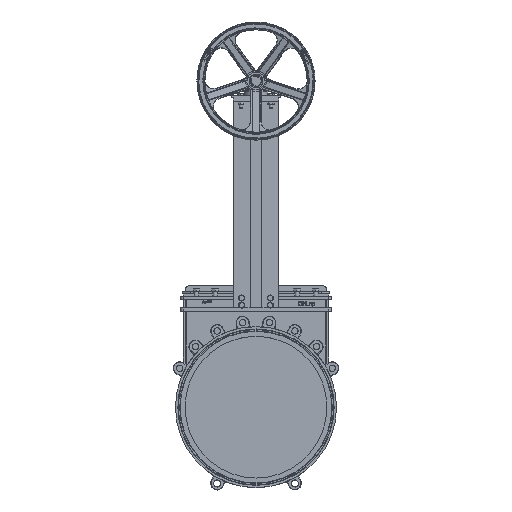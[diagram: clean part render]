
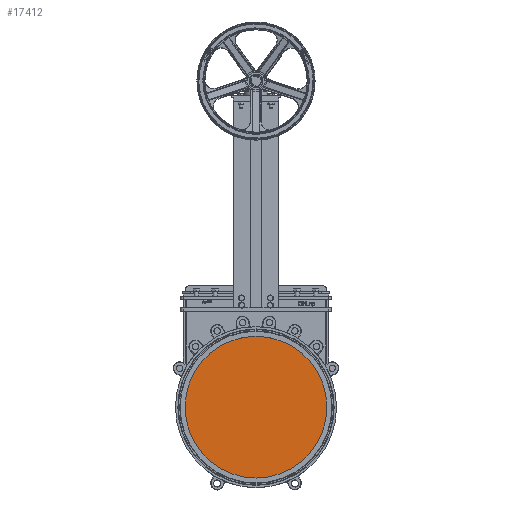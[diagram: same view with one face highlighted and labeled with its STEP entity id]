
A CAD part, top view. The second image highlights one B-rep face of the part: STEP entity #17412.
In plain terms, the highlighted planar face has unit normal (0, 0, 1).
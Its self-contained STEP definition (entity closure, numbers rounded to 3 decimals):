
#17412=ADVANCED_FACE('',(#40141),#40143,.T.);
#40141=FACE_BOUND('',#40142,.T.);
#40142=EDGE_LOOP('',(#49987));
#40143=PLANE('',#40144);
#40144=AXIS2_PLACEMENT_3D('',#40145,#40146,#40147);
#40145=CARTESIAN_POINT('',(0.,0.,5.));
#40146=DIRECTION('',(0.,0.,1.));
#40147=DIRECTION('',(1.,0.,0.));
#49987=ORIENTED_EDGE('',*,*,#54742,.T.);
#54742=EDGE_CURVE('',#62523,#62523,#62524,.F.);
#62523=VERTEX_POINT('',#116953);
#62524=CIRCLE('',#116954,300.);
#116953=CARTESIAN_POINT('',(0.,300.,5.));
#116954=AXIS2_PLACEMENT_3D('',#116955,#116956,#116957);
#116955=CARTESIAN_POINT('',(0.,0.,5.));
#116956=DIRECTION('',(0.,0.,-1.));
#116957=DIRECTION('',(0.,1.,0.));
